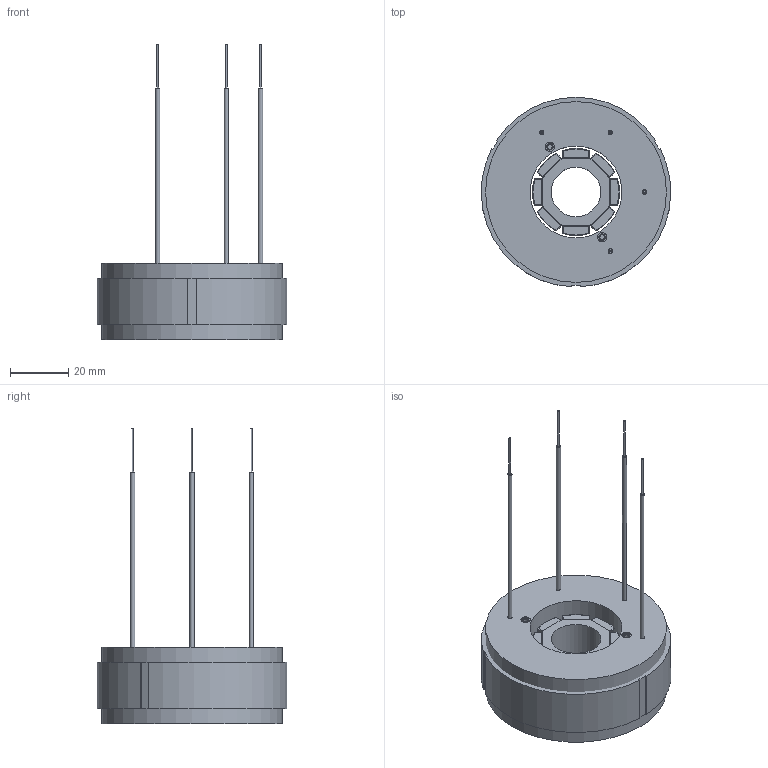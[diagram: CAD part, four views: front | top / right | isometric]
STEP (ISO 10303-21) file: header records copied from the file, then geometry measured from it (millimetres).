
FILE_DESCRIPTION(/* description */ ('Torque_QTR_65_25_N_Kit_CAD_190315.stp'),/* implementation_level */ '2;1');
FILE_NAME(/* name */ 'Torque_QTR_65_25_N_Kit_CAD_190315',/* time_stamp */ '2019-03-15T13:58:00+01:00',/* author */ ('Tecnotion'),/* organization */ ('Tecnotion'),/* preprocessor_version */ 'ST-DEVELOPER v16.7',/* originating_system */ 'DEX',/* authorisation */ $);
FILE_SCHEMA (('AUTOMOTIVE_DESIGN {1 0 10303 214 3 1 1}'));
Length unit declared in the file: millimetre
Products named in the file (2): 1083932_190314
Assembly tree (1 placements, depth 2):
  1083932_190314
    1083932_190314
Bounding box: 64.98 x 64.96 x 101.3 mm (x, y, z)
Surface area: 24354.2 mm2 (no closed solid volume)
Topology: 0 solids, 21 shells, 295 faces, 947 edges, 616 vertices
Faces by surface type: plane 145, cylinder 72, sphere 32, bspline 28, torus 16, cone 2
Full cylindrical faces by diameter (mm): 0.6 x4, 1.5 x6, 1.65 x2, 3.2 x2, 17 x1, 31.5 x1, 62 x1
Entity records: 11831 total; most frequent: CARTESIAN_POINT 4323, DIRECTION 1332, ORIENTED_EDGE 1328, EDGE_CURVE 890, VERTEX_POINT 614, AXIS2_PLACEMENT_3D 515, EDGE_LOOP 363, FACE_BOUND 363
